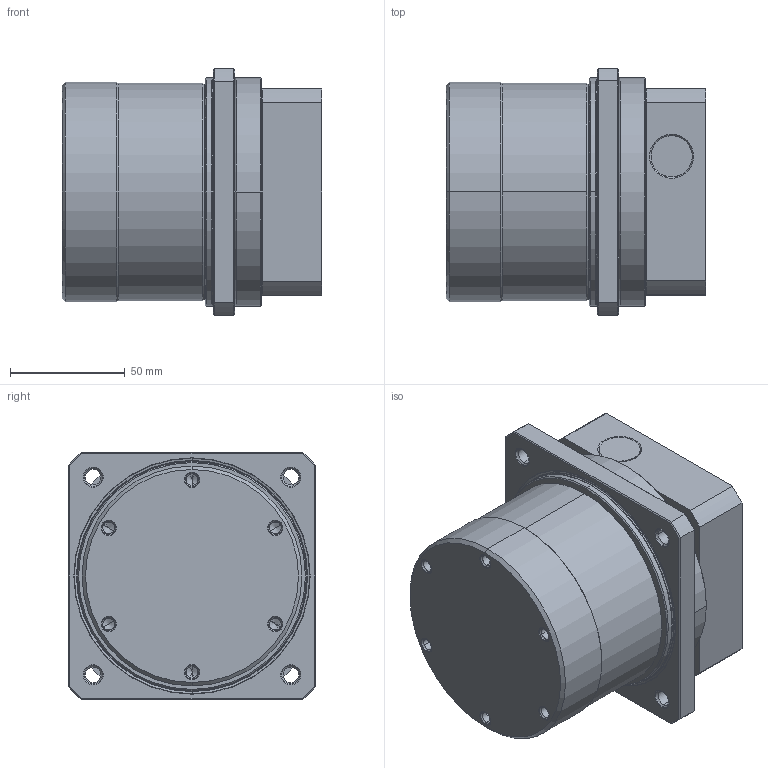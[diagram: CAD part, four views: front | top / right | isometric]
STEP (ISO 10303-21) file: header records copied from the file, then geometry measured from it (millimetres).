
FILE_DESCRIPTION((''),'2;1');
FILE_NAME('GL100_1ST_19-P0409401110_ASM','2023-10-23T',('Administrator'),(''),'PRO/ENGINEER BY PARAMETRIC TECHNOLOGY CORPORATION, 2015240','PRO/ENGINEER BY PARAMETRIC TECHNOLOGY CORPORATION, 2015240','');
FILE_SCHEMA(('CONFIG_CONTROL_DESIGN'));
Length unit declared in the file: millimetre
Products named in the file (8): P0503400006_D; P0912302001_D; P1503300201_D; P0349300001_D; P0247300001_D; GL100_1ST_19_ASM; P0409401110-0015; GL100_1ST_19-P0409401110_ASM
Assembly tree (7 placements, depth 3):
  GL100_1ST_19-P0409401110_ASM
    GL100_1ST_19_ASM
      P0503400006_D
      P0912302001_D
      P1503300201_D
      P0349300001_D
      P0247300001_D
    P0409401110-0015
Bounding box: 113.5 x 108 x 108 mm (x, y, z)
Volume: 787509.8 mm3; surface area: 126081.1 mm2
Topology: 6 solids, 22 shells, 327 faces, 792 edges, 494 vertices
Faces by surface type: cylinder 135, cone 82, plane 80, torus 18, bspline 12
Entity records: 13998 total; most frequent: CARTESIAN_POINT 6077, DIRECTION 1750, ORIENTED_EDGE 1480, EDGE_CURVE 772, AXIS2_PLACEMENT_3D 723, VERTEX_POINT 494, EDGE_LOOP 388, CIRCLE 380
